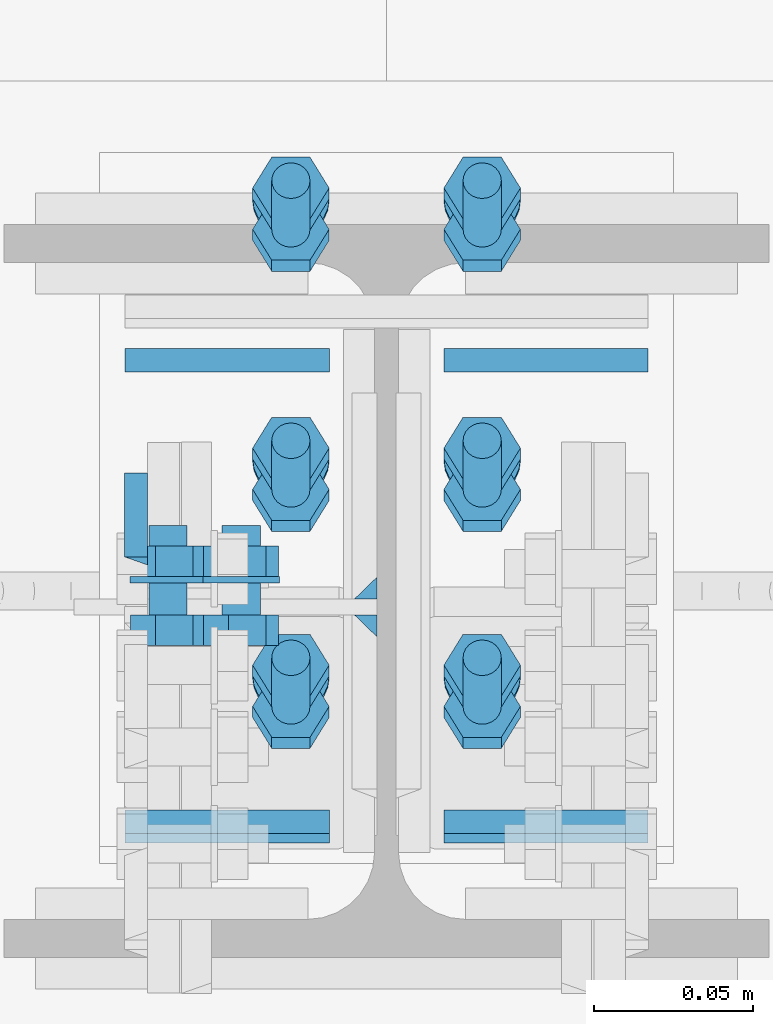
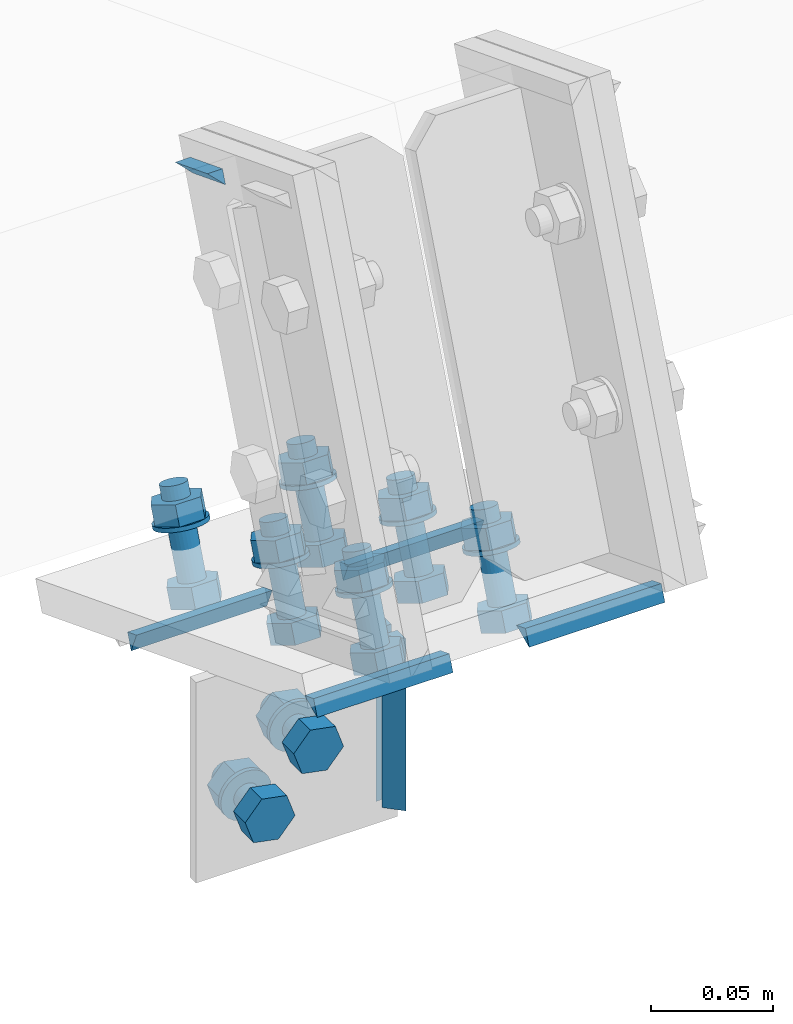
# One storey, part 26 of 72: 32 mechanical fasteners, 11 fasteners.
"""IFC4 building model written with IfcOpenShell, lengths in metres."""

from ifc_helpers import new_model, si_unit, frame, origin_with_axes, place, context, project, spatial, polyline, outline, extrude, type_object, element, save


model = new_model("IFC4")

# Units and contexts
model_context = context("Model", 3, precision=1e-05, world=origin_with_axes())
ifc_project = project(units=[si_unit("LENGTHUNIT", "METRE"), si_unit("AREAUNIT", "SQUARE_METRE"), si_unit("VOLUMEUNIT", "CUBIC_METRE"), si_unit("MASSUNIT", "GRAM", prefix="KILO"), si_unit("TIMEUNIT", "SECOND"), si_unit("PLANEANGLEUNIT", "RADIAN"), si_unit("SOLIDANGLEUNIT", "STERADIAN"), si_unit("THERMODYNAMICTEMPERATUREUNIT", "DEGREE_CELSIUS")], contexts=[model_context])

# Site, building, storey
placement_1 = place(None, origin_with_axes())
site = spatial("IfcSite", under=ifc_project, at=placement_1, Name="Italia", CompositionType="ELEMENT")
building = spatial("IfcBuilding", under=site, at=placement_1, Name="Uffici", CompositionType="ELEMENT")
storey = spatial("IfcBuildingStorey", under=building, at=placement_1, Name="Storey 0", CompositionType="ELEMENT", Elevation=0.0)

# Mechanical fasteners
mechanical_fastener_type_1 = type_object("IfcMechanicalFastenerType", Name="Collegamento 0202_0101", PredefinedType="BOLT")
placement_2 = place(placement_1, origin_with_axes())
mechanical_fastener_1_placement = place(placement_2, origin_with_axes())
element("IfcMechanicalFastener", 1, at=mechanical_fastener_1_placement, inside=storey, type_object=mechanical_fastener_type_1, Name="Collegamento 0202_0101", NominalDiameter=0.0119998, context=model_context, shape_type="SweptSolid", body=[
    extrude(outline(polyline([(0.0, 0.0), (0.00786185, 0.00906563), (0.00394154, 0.0204072), (-0.00784063, 0.0226831), (-0.0157025, 0.013617), (-0.0117822, 0.00227547), (0.0, 0.0)])), frame((3.16333, -0.0075, 6.93199), z_axis=(0.0, -1.0, 0.0), x_axis=(1.0, 0.0, 0.0)), (0.0, 0.0, 1.0), 0.0096),
])
mechanical_fastener_type_2 = type_object("IfcMechanicalFastenerType", Name="Collegamento 0202_0101", PredefinedType="BOLT")
mechanical_fastener_2_placement = place(placement_2, origin_with_axes())
element("IfcMechanicalFastener", 2, at=mechanical_fastener_2_placement, inside=storey, type_object=mechanical_fastener_type_2, Name="Collegamento 0202_0101", NominalDiameter=0.012, context=model_context, shape_type="SweptSolid", body=[
    extrude(outline(polyline([(0.0, 0.0), (-0.000204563, -0.00155306), (-0.000803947, -0.00299978), (-0.00175738, -0.00424242), (-0.00300002, -0.00519609), (-0.00444722, -0.00579548), (-0.00600004, -0.00600004), (-0.00755286, -0.00579548), (-0.00900006, -0.00519609), (-0.0102427, -0.00424242), (-0.0111961, -0.00299978), (-0.0117955, -0.00155306), (-0.0120001, 0.0), (-0.0117955, 0.00155306), (-0.0111961, 0.00299978), (-0.0102427, 0.00424242), (-0.00900006, 0.00519609), (-0.00755286, 0.00579548), (-0.00600004, 0.00600004), (-0.00444722, 0.00579548), (-0.00300002, 0.00519609), (-0.00175738, 0.00424242), (-0.000803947, 0.00299978), (-0.000204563, 0.00155306), (0.0, 0.0)])), frame((3.16541, 0.0205, 6.94333), z_axis=(0.0, -1.0, 0.0), x_axis=(1.0, 0.0, 0.0)), (0.0, 0.0, 1.0), 0.028),
])
mechanical_fastener_type_3 = type_object("IfcMechanicalFastenerType", Name="Collegamento 0202_0101", PredefinedType="BOLT")
mechanical_fastener_3_placement = place(placement_2, origin_with_axes())
element("IfcMechanicalFastener", 3, at=mechanical_fastener_3_placement, inside=storey, type_object=mechanical_fastener_type_3, Name="Collegamento 0202_0101", NominalDiameter=0.0119998, context=model_context, shape_type="SweptSolid", body=[
    extrude(outline(polyline([(0.0, 0.0), (0.00786185, 0.00906563), (0.00394154, 0.0204072), (-0.00784063, 0.0226831), (-0.0157025, 0.013617), (-0.0117822, 0.00227547), (0.0, 0.0)])), frame((3.16333, 0.0141, 6.93199), z_axis=(0.0, -1.0, 0.0), x_axis=(1.0, 0.0, 0.0)), (0.0, 0.0, 1.0), 0.0096),
])
mechanical_fastener_type_4 = type_object("IfcMechanicalFastenerType", Name="Collegamento 0202_0101", PredefinedType="BOLT")
mechanical_fastener_4_placement = place(placement_2, origin_with_axes())
element("IfcMechanicalFastener", 4, at=mechanical_fastener_4_placement, inside=storey, type_object=mechanical_fastener_type_4, Name="Collegamento 0202_0101", NominalDiameter=0.024, context=model_context, shape_type="SweptSolid", body=[
    extrude(outline(polyline([(0.0, 0.0), (-0.000408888, -0.00310564), (-0.00160789, -0.00600004), (-0.00351477, -0.00848532), (-0.00600004, -0.0103922), (-0.00889421, -0.011591), (-0.0120001, -0.0120001), (-0.015106, -0.011591), (-0.0180001, -0.0103922), (-0.0204854, -0.00848532), (-0.0223923, -0.00600004), (-0.0235913, -0.00310564), (-0.0240002, 0.0), (-0.0235913, 0.00310564), (-0.0223923, 0.00600004), (-0.0204854, 0.00848532), (-0.0180001, 0.0103922), (-0.015106, 0.011591), (-0.0120001, 0.0120001), (-0.00889421, 0.011591), (-0.00600004, 0.0103922), (-0.00351477, 0.00848532), (-0.00160789, 0.00600004), (-0.000408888, 0.00310564), (0.0, 0.0)])), frame((3.17141, 0.0045, 6.94333), z_axis=(0.0, -1.0, 0.0), x_axis=(1.0, 0.0, 0.0)), (0.0, 0.0, 1.0), 0.002),
])
mechanical_fastener_type_5 = type_object("IfcMechanicalFastenerType", Name="Collegamento 0202_0101", PredefinedType="BOLT")
mechanical_fastener_5_placement = place(placement_2, origin_with_axes())
element("IfcMechanicalFastener", 5, at=mechanical_fastener_5_placement, inside=storey, type_object=mechanical_fastener_type_5, Name="Collegamento 0202_0101", NominalDiameter=0.0119999, context=model_context, shape_type="SweptSolid", body=[
    extrude(outline(polyline([(0.0, 0.0), (0.00786185, 0.0090661), (0.00394154, 0.0204077), (-0.00784063, 0.0226831), (-0.0157027, 0.0136175), (-0.0117824, 0.00227594), (0.0, 0.0)])), frame((3.1404, -0.0075, 6.90555), z_axis=(0.0, -1.0, 0.0), x_axis=(1.0, 0.0, 0.0)), (0.0, 0.0, 1.0), 0.0096),
])
mechanical_fastener_type_6 = type_object("IfcMechanicalFastenerType", Name="Collegamento 0202_0101", PredefinedType="BOLT")
mechanical_fastener_6_placement = place(placement_2, origin_with_axes())
element("IfcMechanicalFastener", 6, at=mechanical_fastener_6_placement, inside=storey, type_object=mechanical_fastener_type_6, Name="Collegamento 0202_0101", NominalDiameter=0.012, context=model_context, shape_type="SweptSolid", body=[
    extrude(outline(polyline([(0.0, 0.0), (-0.000204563, -0.00155306), (-0.000803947, -0.00299978), (-0.00175738, -0.00424242), (-0.00300002, -0.00519609), (-0.00444722, -0.00579548), (-0.00600004, -0.00600004), (-0.00755286, -0.00579548), (-0.00900006, -0.00519609), (-0.0102427, -0.00424242), (-0.0111961, -0.00299978), (-0.0117955, -0.00155306), (-0.0120001, 0.0), (-0.0117955, 0.00155306), (-0.0111961, 0.00299978), (-0.0102427, 0.00424242), (-0.00900006, 0.00519609), (-0.00755286, 0.00579548), (-0.00600004, 0.00600004), (-0.00444722, 0.00579548), (-0.00300002, 0.00519609), (-0.00175738, 0.00424242), (-0.000803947, 0.00299978), (-0.000204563, 0.00155306), (0.0, 0.0)])), frame((3.14248, 0.0205, 6.91689), z_axis=(0.0, -1.0, 0.0), x_axis=(1.0, 0.0, 0.0)), (0.0, 0.0, 1.0), 0.028),
])
mechanical_fastener_type_7 = type_object("IfcMechanicalFastenerType", Name="Collegamento 0202_0101", PredefinedType="BOLT")
mechanical_fastener_7_placement = place(placement_2, origin_with_axes())
element("IfcMechanicalFastener", 7, at=mechanical_fastener_7_placement, inside=storey, type_object=mechanical_fastener_type_7, Name="Collegamento 0202_0101", NominalDiameter=0.0119999, context=model_context, shape_type="SweptSolid", body=[
    extrude(outline(polyline([(0.0, 0.0), (0.00786185, 0.0090661), (0.00394154, 0.0204077), (-0.00784063, 0.0226831), (-0.0157027, 0.0136175), (-0.0117824, 0.00227594), (0.0, 0.0)])), frame((3.1404, 0.0141, 6.90555), z_axis=(0.0, -1.0, 0.0), x_axis=(1.0, 0.0, 0.0)), (0.0, 0.0, 1.0), 0.0096),
])
mechanical_fastener_type_8 = type_object("IfcMechanicalFastenerType", Name="Collegamento 0202_0101", PredefinedType="BOLT")
mechanical_fastener_8_placement = place(placement_2, origin_with_axes())
element("IfcMechanicalFastener", 8, at=mechanical_fastener_8_placement, inside=storey, type_object=mechanical_fastener_type_8, Name="Collegamento 0202_0101", NominalDiameter=0.024, context=model_context, shape_type="SweptSolid", body=[
    extrude(outline(polyline([(0.0, 0.0), (-0.000408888, -0.00310564), (-0.00160789, -0.00600004), (-0.00351477, -0.00848532), (-0.00600004, -0.0103922), (-0.00889421, -0.011591), (-0.0120001, -0.0120001), (-0.015106, -0.011591), (-0.0180001, -0.0103922), (-0.0204854, -0.00848532), (-0.0223923, -0.00600004), (-0.0235913, -0.00310564), (-0.0240002, 0.0), (-0.0235913, 0.00310564), (-0.0223923, 0.00600004), (-0.0204854, 0.00848532), (-0.0180001, 0.0103922), (-0.015106, 0.011591), (-0.0120001, 0.0120001), (-0.00889421, 0.011591), (-0.00600004, 0.0103922), (-0.00351477, 0.00848532), (-0.00160789, 0.00600004), (-0.000408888, 0.00310564), (0.0, 0.0)])), frame((3.14848, 0.0045, 6.91689), z_axis=(0.0, -1.0, 0.0), x_axis=(1.0, 0.0, 0.0)), (0.0, 0.0, 1.0), 0.002),
])

# Fasteners
fastener_type_1 = type_object("IfcFastenerType", Name="Collegamento 0202_0101", PredefinedType="WELD")
fastener_1_placement = place(placement_2, origin_with_axes())
element("IfcFastener", 9, at=fastener_1_placement, inside=storey, type_object=fastener_type_1, Name="Collegamento 0202_0101", context=model_context, shape_type="SweptSolid", body=[
    extrude(outline(polyline([(0.0, 0.0), (-0.00695816, -0.00717354), (-0.00695816, 0.0), (0.0, 0.0)])), frame((3.20205, 0.00440816, 6.9825), z_axis=(0.0, 0.0, -1.0), x_axis=(0.0, 1.0, 0.0)), (0.0, 0.0, 1.0), 0.0861006),
])
fastener_type_2 = type_object("IfcFastenerType", Name="Collegamento 0202_0101", PredefinedType="WELD")
fastener_2_placement = place(placement_2, origin_with_axes())
element("IfcFastener", 10, at=fastener_2_placement, inside=storey, type_object=fastener_type_2, Name="Collegamento 0202_0101", context=model_context, shape_type="SweptSolid", body=[
    extrude(outline(polyline([(0.0, 0.0), (0.00695816, 0.00717354), (0.00695816, 0.0), (0.0, 0.0)])), frame((3.20205, -0.0144082, 6.8964), z_axis=(0.0, 0.0, 1.0), x_axis=(0.0, 1.0, 0.0)), (0.0, 0.0, 1.0), 0.0861006),
])
fastener_type_3 = type_object("IfcFastenerType", Name="Collegamento 0202_0102", PredefinedType="WELD")
fastener_3_placement = place(placement_2, origin_with_axes())
element("IfcFastener", 11, at=fastener_3_placement, inside=storey, type_object=fastener_type_3, Name="Collegamento 0202_0102", context=model_context, shape_type="SweptSolid", body=[
    extrude(outline(polyline([(0.0, 0.0), (-0.00443701, -0.0104871), (-0.00739191, -0.00286627), (0.0, 0.0)])), frame((3.28705, 0.0686728, 6.96138), z_axis=(-1.0, 0.0, 0.0), x_axis=(0.0, -1.0, 0.0)), (0.0, 0.0, 1.0), 0.0640998),
])
fastener_type_4 = type_object("IfcFastenerType", Name="Collegamento 0202_0102", PredefinedType="WELD")
fastener_4_placement = place(placement_2, origin_with_axes())
element("IfcFastener", 12, at=fastener_4_placement, inside=storey, type_object=fastener_type_4, Name="Collegamento 0202_0102", context=model_context, shape_type="SweptSolid", body=[
    extrude(outline(polyline([(0.0, 0.0), (-0.0103468, -0.00475407), (-0.00739191, 0.00286627), (0.0, 0.0)])), frame((3.22295, -0.0686365, 7.01462), z_axis=(1.0, 0.0, 0.0), x_axis=(0.0, 1.0, 0.0)), (0.0, 0.0, 1.0), 0.0640998),
])
fastener_type_5 = type_object("IfcFastenerType", Name="Collegamento 0202_0102", PredefinedType="WELD")
fastener_5_placement = place(placement_2, origin_with_axes())
element("IfcFastener", 13, at=fastener_5_placement, inside=storey, type_object=fastener_type_5, Name="Collegamento 0202_0102", context=model_context, shape_type="SweptSolid", body=[
    extrude(outline(polyline([(0.0, 0.0), (-0.0103468, -0.00475407), (-0.00739191, 0.00286627), (0.0, 0.0)])), frame((3.12295, -0.0686365, 7.01462), z_axis=(1.0, 0.0, 0.0), x_axis=(0.0, 1.0, 0.0)), (0.0, 0.0, 1.0), 0.0640998),
])
fastener_type_6 = type_object("IfcFastenerType", Name="Collegamento 0202_0102", PredefinedType="WELD")
fastener_6_placement = place(placement_2, origin_with_axes())
element("IfcFastener", 14, at=fastener_6_placement, inside=storey, type_object=fastener_type_6, Name="Collegamento 0202_0102", context=model_context, shape_type="SweptSolid", body=[
    extrude(outline(polyline([(0.0, 0.0), (-0.00443701, -0.0104871), (-0.00739191, -0.00286627), (0.0, 0.0)])), frame((3.18705, 0.0686728, 6.96138), z_axis=(-1.0, 0.0, 0.0), x_axis=(0.0, -1.0, 0.0)), (0.0, 0.0, 1.0), 0.0640998),
])
fastener_type_7 = type_object("IfcFastenerType", Name="Collegamento 0202_0102", PredefinedType="WELD")
fastener_7_placement = place(placement_2, origin_with_axes())
element("IfcFastener", 15, at=fastener_7_placement, inside=storey, type_object=fastener_type_7, Name="Collegamento 0202_0102", context=model_context, shape_type="SweptSolid", body=[
    extrude(outline(polyline([(0.0, 0.0), (-0.00443701, -0.0104871), (-0.00739191, -0.00286627), (0.0, 0.0)])), frame((3.28705, 0.0686728, 6.96138), z_axis=(-1.0, 0.0, 0.0), x_axis=(0.0, -1.0, 0.0)), (0.0, 0.0, 1.0), 0.0640998),
])
fastener_type_8 = type_object("IfcFastenerType", Name="Collegamento 0202_0102", PredefinedType="WELD")
fastener_8_placement = place(placement_2, origin_with_axes())
element("IfcFastener", 16, at=fastener_8_placement, inside=storey, type_object=fastener_type_8, Name="Collegamento 0202_0102", context=model_context, shape_type="SweptSolid", body=[
    extrude(outline(polyline([(0.0, 0.0), (-0.0103468, -0.00475407), (-0.00739191, 0.00286627), (0.0, 0.0)])), frame((3.22295, -0.0686365, 7.01462), z_axis=(1.0, 0.0, 0.0), x_axis=(0.0, 1.0, 0.0)), (0.0, 0.0, 1.0), 0.0640998),
])
fastener_type_9 = type_object("IfcFastenerType", Name="Collegamento 0202_0102", PredefinedType="WELD")
fastener_9_placement = place(placement_2, origin_with_axes())
element("IfcFastener", 17, at=fastener_9_placement, inside=storey, type_object=fastener_type_9, Name="Collegamento 0202_0102", context=model_context, shape_type="SweptSolid", body=[
    extrude(outline(polyline([(0.0, 0.0), (-0.0103468, -0.00475407), (-0.00739191, 0.00286627), (0.0, 0.0)])), frame((3.12295, -0.0686365, 7.01462), z_axis=(1.0, 0.0, 0.0), x_axis=(0.0, 1.0, 0.0)), (0.0, 0.0, 1.0), 0.0640998),
])
fastener_type_10 = type_object("IfcFastenerType", Name="Collegamento 0202_0102", PredefinedType="WELD")
fastener_10_placement = place(placement_2, origin_with_axes())
element("IfcFastener", 18, at=fastener_10_placement, inside=storey, type_object=fastener_type_10, Name="Collegamento 0202_0102", context=model_context, shape_type="SweptSolid", body=[
    extrude(outline(polyline([(0.0, 0.0), (-0.00443701, -0.0104871), (-0.00739191, -0.00286627), (0.0, 0.0)])), frame((3.18705, 0.0686728, 6.96138), z_axis=(-1.0, 0.0, 0.0), x_axis=(0.0, -1.0, 0.0)), (0.0, 0.0, 1.0), 0.0640998),
])

# Mechanical fasteners
mechanical_fastener_type_9 = type_object("IfcMechanicalFastenerType", Name="Collegamento 0202_0102", PredefinedType="BOLT")
mechanical_fastener_9_placement = place(placement_2, origin_with_axes())
element("IfcMechanicalFastener", 19, at=mechanical_fastener_9_placement, inside=storey, type_object=mechanical_fastener_type_9, Name="Collegamento 0202_0102", NominalDiameter=0.012, context=model_context, shape_type="SweptSolid", body=[
    extrude(outline(polyline([(0.0, 0.0), (0.0120001, 0.0), (0.0180001, -0.0103924), (0.0120001, -0.0207849), (0.0, -0.0207849), (-0.00600004, -0.0103924), (0.0, 0.0)])), frame((3.229, 0.103764, 6.94772), z_axis=(0.0, -0.361526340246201, -0.932361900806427), x_axis=(1.0, 0.0, 0.0)), (0.0, 0.0, 1.0), 0.00960004),
])
mechanical_fastener_type_10 = type_object("IfcMechanicalFastenerType", Name="Collegamento 0202_0102", PredefinedType="BOLT")
mechanical_fastener_10_placement = place(placement_2, origin_with_axes())
element("IfcMechanicalFastener", 20, at=mechanical_fastener_10_placement, inside=storey, type_object=mechanical_fastener_type_10, Name="Collegamento 0202_0102", NominalDiameter=0.012, context=model_context, shape_type="SweptSolid", body=[
    extrude(outline(polyline([(0.0, 0.0), (-0.000204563, -0.00155282), (-0.000803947, -0.00300002), (-0.00175738, -0.00424266), (-0.00300002, -0.00519633), (-0.00444722, -0.00579548), (-0.00600004, -0.0059998), (-0.00755286, -0.00579548), (-0.00900006, -0.00519633), (-0.0102427, -0.00424266), (-0.0111961, -0.00300002), (-0.0117955, -0.00155282), (-0.0120001, 0.0), (-0.0117955, 0.00155282), (-0.0111961, 0.00300002), (-0.0102427, 0.00424266), (-0.00900006, 0.00519633), (-0.00755286, 0.00579548), (-0.00600004, 0.00600004), (-0.00444722, 0.00579548), (-0.00300002, 0.00519633), (-0.00175738, 0.00424266), (-0.000803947, 0.00300002), (-0.000204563, 0.00155282), (0.0, 0.0)])), frame((3.241, 0.12871, 6.9833), z_axis=(0.0, -0.361526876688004, -0.932361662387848), x_axis=(1.0, 0.0, 0.0)), (0.0, 0.0, 1.0), 0.0422001),
])
mechanical_fastener_type_11 = type_object("IfcMechanicalFastenerType", Name="Collegamento 0202_0102", PredefinedType="BOLT")
mechanical_fastener_11_placement = place(placement_2, origin_with_axes())
element("IfcMechanicalFastener", 21, at=mechanical_fastener_11_placement, inside=storey, type_object=mechanical_fastener_type_11, Name="Collegamento 0202_0102", NominalDiameter=0.012, context=model_context, shape_type="SweptSolid", body=[
    extrude(outline(polyline([(0.0, 0.0), (0.0120001, 0.0), (0.0180001, -0.0103924), (0.0120001, -0.0207849), (0.0, -0.0207849), (-0.00600004, -0.0103924), (0.0, 0.0)])), frame((3.229, 0.116706, 6.98109), z_axis=(0.0, -0.361526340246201, -0.932361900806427), x_axis=(1.0, 0.0, 0.0)), (0.0, 0.0, 1.0), 0.00960004),
])
mechanical_fastener_type_12 = type_object("IfcMechanicalFastenerType", Name="Collegamento 0202_0102", PredefinedType="BOLT")
mechanical_fastener_12_placement = place(placement_2, origin_with_axes())
element("IfcMechanicalFastener", 22, at=mechanical_fastener_12_placement, inside=storey, type_object=mechanical_fastener_type_12, Name="Collegamento 0202_0102", NominalDiameter=0.024, context=model_context, shape_type="SweptSolid", body=[
    extrude(outline(polyline([(0.0, 0.0), (-0.000408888, -0.00310588), (-0.00160789, -0.00600004), (-0.00351477, -0.00848532), (-0.00600004, -0.0103924), (-0.00889421, -0.0115912), (-0.0120001, -0.0120001), (-0.015106, -0.0115912), (-0.0180001, -0.0103924), (-0.0204854, -0.00848532), (-0.0223923, -0.00600004), (-0.0235913, -0.00310588), (-0.0240002, 0.0), (-0.0235913, 0.00310588), (-0.0223923, 0.0059998), (-0.0204854, 0.00848508), (-0.0180001, 0.0103922), (-0.015106, 0.0115912), (-0.0120001, 0.0119998), (-0.00889421, 0.0115912), (-0.00600004, 0.0103922), (-0.00351477, 0.00848508), (-0.00160789, 0.0059998), (-0.000408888, 0.00310588), (0.0, 0.0)])), frame((3.247, 0.122925, 6.96839), z_axis=(0.0, -0.36160933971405, -0.932329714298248), x_axis=(1.0, 0.0, 0.0)), (0.0, 0.0, 1.0), 0.00199976),
])
mechanical_fastener_type_13 = type_object("IfcMechanicalFastenerType", Name="Collegamento 0202_0102", PredefinedType="BOLT")
mechanical_fastener_13_placement = place(placement_2, origin_with_axes())
element("IfcMechanicalFastener", 23, at=mechanical_fastener_13_placement, inside=storey, type_object=mechanical_fastener_type_13, Name="Collegamento 0202_0102", NominalDiameter=0.012, context=model_context, shape_type="SweptSolid", body=[
    extrude(outline(polyline([(0.0, 0.0), (0.0120001, 0.0), (0.0180001, -0.0103924), (0.0120001, -0.0207849), (0.0, -0.0207849), (-0.00600004, -0.0103924), (0.0, 0.0)])), frame((3.169, 0.103764, 6.94772), z_axis=(0.0, -0.361526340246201, -0.932361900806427), x_axis=(1.0, 0.0, 0.0)), (0.0, 0.0, 1.0), 0.00960004),
])
mechanical_fastener_type_14 = type_object("IfcMechanicalFastenerType", Name="Collegamento 0202_0102", PredefinedType="BOLT")
mechanical_fastener_14_placement = place(placement_2, origin_with_axes())
element("IfcMechanicalFastener", 24, at=mechanical_fastener_14_placement, inside=storey, type_object=mechanical_fastener_type_14, Name="Collegamento 0202_0102", NominalDiameter=0.012, context=model_context, shape_type="SweptSolid", body=[
    extrude(outline(polyline([(0.0, 0.0), (-0.000204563, -0.00155282), (-0.000803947, -0.00300002), (-0.00175738, -0.00424266), (-0.00300002, -0.00519633), (-0.00444722, -0.00579548), (-0.00600004, -0.0059998), (-0.00755286, -0.00579548), (-0.00900006, -0.00519633), (-0.0102427, -0.00424266), (-0.0111961, -0.00300002), (-0.0117955, -0.00155282), (-0.0120001, 0.0), (-0.0117955, 0.00155282), (-0.0111961, 0.00300002), (-0.0102427, 0.00424266), (-0.00900006, 0.00519633), (-0.00755286, 0.00579548), (-0.00600004, 0.00600004), (-0.00444722, 0.00579548), (-0.00300002, 0.00519633), (-0.00175738, 0.00424266), (-0.000803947, 0.00300002), (-0.000204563, 0.00155282), (0.0, 0.0)])), frame((3.181, 0.12871, 6.9833), z_axis=(0.0, -0.361526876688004, -0.932361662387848), x_axis=(1.0, 0.0, 0.0)), (0.0, 0.0, 1.0), 0.0422001),
])
mechanical_fastener_type_15 = type_object("IfcMechanicalFastenerType", Name="Collegamento 0202_0102", PredefinedType="BOLT")
mechanical_fastener_15_placement = place(placement_2, origin_with_axes())
element("IfcMechanicalFastener", 25, at=mechanical_fastener_15_placement, inside=storey, type_object=mechanical_fastener_type_15, Name="Collegamento 0202_0102", NominalDiameter=0.012, context=model_context, shape_type="SweptSolid", body=[
    extrude(outline(polyline([(0.0, 0.0), (0.0120001, 0.0), (0.0180001, -0.0103924), (0.0120001, -0.0207849), (0.0, -0.0207849), (-0.00600004, -0.0103924), (0.0, 0.0)])), frame((3.169, 0.116706, 6.98109), z_axis=(0.0, -0.361526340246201, -0.932361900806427), x_axis=(1.0, 0.0, 0.0)), (0.0, 0.0, 1.0), 0.00960004),
])
mechanical_fastener_type_16 = type_object("IfcMechanicalFastenerType", Name="Collegamento 0202_0102", PredefinedType="BOLT")
mechanical_fastener_16_placement = place(placement_2, origin_with_axes())
element("IfcMechanicalFastener", 26, at=mechanical_fastener_16_placement, inside=storey, type_object=mechanical_fastener_type_16, Name="Collegamento 0202_0102", NominalDiameter=0.024, context=model_context, shape_type="SweptSolid", body=[
    extrude(outline(polyline([(0.0, 0.0), (-0.000408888, -0.00310588), (-0.00160789, -0.00600004), (-0.00351477, -0.00848532), (-0.00600004, -0.0103924), (-0.00889421, -0.0115912), (-0.0120001, -0.0120001), (-0.015106, -0.0115912), (-0.0180001, -0.0103924), (-0.0204854, -0.00848532), (-0.0223923, -0.00600004), (-0.0235913, -0.00310588), (-0.0240002, 0.0), (-0.0235913, 0.00310588), (-0.0223923, 0.0059998), (-0.0204854, 0.00848508), (-0.0180001, 0.0103922), (-0.015106, 0.0115912), (-0.0120001, 0.0119998), (-0.00889421, 0.0115912), (-0.00600004, 0.0103922), (-0.00351477, 0.00848508), (-0.00160789, 0.0059998), (-0.000408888, 0.00310588), (0.0, 0.0)])), frame((3.187, 0.122925, 6.96839), z_axis=(0.0, -0.36160933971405, -0.932329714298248), x_axis=(1.0, 0.0, 0.0)), (0.0, 0.0, 1.0), 0.00199976),
])
mechanical_fastener_type_17 = type_object("IfcMechanicalFastenerType", Name="Collegamento 0202_0102", PredefinedType="BOLT")
mechanical_fastener_17_placement = place(placement_2, origin_with_axes())
element("IfcMechanicalFastener", 27, at=mechanical_fastener_17_placement, inside=storey, type_object=mechanical_fastener_type_17, Name="Collegamento 0202_0102", NominalDiameter=0.012, context=model_context, shape_type="SweptSolid", body=[
    extrude(outline(polyline([(0.0, 0.0), (0.0120001, 0.0), (0.0180001, -0.0103927), (0.0120001, -0.0207849), (0.0, -0.0207849), (-0.00600004, -0.0103927), (0.0, 0.0)])), frame((3.229, -0.0458802, 7.00574), z_axis=(0.0, -0.361526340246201, -0.932361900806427), x_axis=(1.0, 0.0, 0.0)), (0.0, 0.0, 1.0), 0.00960004),
])
mechanical_fastener_type_18 = type_object("IfcMechanicalFastenerType", Name="Collegamento 0202_0102", PredefinedType="BOLT")
mechanical_fastener_18_placement = place(placement_2, origin_with_axes())
element("IfcMechanicalFastener", 28, at=mechanical_fastener_18_placement, inside=storey, type_object=mechanical_fastener_type_18, Name="Collegamento 0202_0102", NominalDiameter=0.012, context=model_context, shape_type="SweptSolid", body=[
    extrude(outline(polyline([(0.0, 0.0), (-0.000204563, -0.00155282), (-0.000803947, -0.00300002), (-0.00175738, -0.00424266), (-0.00300002, -0.00519633), (-0.00444722, -0.00579548), (-0.00600004, -0.00600004), (-0.00755286, -0.00579548), (-0.00900006, -0.00519633), (-0.0102427, -0.00424266), (-0.0111961, -0.00300002), (-0.0117955, -0.00155282), (-0.0120001, 0.0), (-0.0117955, 0.00155282), (-0.0111961, 0.00300002), (-0.0102427, 0.00424266), (-0.00900006, 0.00519609), (-0.00755286, 0.00579548), (-0.00600004, 0.00600004), (-0.00444722, 0.00579548), (-0.00300002, 0.00519609), (-0.00175738, 0.00424266), (-0.000803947, 0.00300002), (-0.000204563, 0.00155282), (0.0, 0.0)])), frame((3.241, -0.0209343, 7.04133), z_axis=(0.0, -0.361532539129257, -0.932359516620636), x_axis=(1.0, 0.0, 0.0)), (0.0, 0.0, 1.0), 0.0421997),
])
mechanical_fastener_type_19 = type_object("IfcMechanicalFastenerType", Name="Collegamento 0202_0102", PredefinedType="BOLT")
mechanical_fastener_19_placement = place(placement_2, origin_with_axes())
element("IfcMechanicalFastener", 29, at=mechanical_fastener_19_placement, inside=storey, type_object=mechanical_fastener_type_19, Name="Collegamento 0202_0102", NominalDiameter=0.012, context=model_context, shape_type="SweptSolid", body=[
    extrude(outline(polyline([(0.0, 0.0), (0.0120001, 0.0), (0.0180001, -0.0103922), (0.0120001, -0.0207844), (0.0, -0.0207844), (-0.00600004, -0.0103922), (0.0, 0.0)])), frame((3.229, -0.0329375, 7.03912), z_axis=(0.0, -0.361543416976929, -0.932355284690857), x_axis=(1.0, 0.0, 0.0)), (0.0, 0.0, 1.0), 0.0095996),
])
mechanical_fastener_type_20 = type_object("IfcMechanicalFastenerType", Name="Collegamento 0202_0102", PredefinedType="BOLT")
mechanical_fastener_20_placement = place(placement_2, origin_with_axes())
element("IfcMechanicalFastener", 30, at=mechanical_fastener_20_placement, inside=storey, type_object=mechanical_fastener_type_20, Name="Collegamento 0202_0102", NominalDiameter=0.024, context=model_context, shape_type="SweptSolid", body=[
    extrude(outline(polyline([(0.0, 0.0), (-0.000408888, -0.00310588), (-0.00160789, -0.00600028), (-0.00351477, -0.00848532), (-0.00600004, -0.0103924), (-0.00889421, -0.0115912), (-0.0120001, -0.0120001), (-0.015106, -0.0115912), (-0.0180001, -0.0103924), (-0.0204854, -0.00848532), (-0.0223923, -0.00600028), (-0.0235913, -0.00310588), (-0.0240002, 0.0), (-0.0235913, 0.00310564), (-0.0223923, 0.0059998), (-0.0204854, 0.00848508), (-0.0180001, 0.010392), (-0.015106, 0.0115907), (-0.0120001, 0.0119998), (-0.00889421, 0.0115907), (-0.00600004, 0.010392), (-0.00351477, 0.00848508), (-0.00160789, 0.0059998), (-0.000408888, 0.00310564), (0.0, 0.0)])), frame((3.247, -0.0267188, 7.02641), z_axis=(0.0, -0.361576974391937, -0.932342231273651), x_axis=(1.0, 0.0, 0.0)), (0.0, 0.0, 1.0), 0.00199973),
])
mechanical_fastener_type_21 = type_object("IfcMechanicalFastenerType", Name="Collegamento 0202_0102", PredefinedType="BOLT")
mechanical_fastener_21_placement = place(placement_2, origin_with_axes())
element("IfcMechanicalFastener", 31, at=mechanical_fastener_21_placement, inside=storey, type_object=mechanical_fastener_type_21, Name="Collegamento 0202_0102", NominalDiameter=0.012, context=model_context, shape_type="SweptSolid", body=[
    extrude(outline(polyline([(0.0, 0.0), (0.0120001, 0.0), (0.0180001, -0.0103927), (0.0120001, -0.0207849), (0.0, -0.0207849), (-0.00600004, -0.0103927), (0.0, 0.0)])), frame((3.169, -0.0458802, 7.00574), z_axis=(0.0, -0.361526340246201, -0.932361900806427), x_axis=(1.0, 0.0, 0.0)), (0.0, 0.0, 1.0), 0.00960004),
])
mechanical_fastener_type_22 = type_object("IfcMechanicalFastenerType", Name="Collegamento 0202_0102", PredefinedType="BOLT")
mechanical_fastener_22_placement = place(placement_2, origin_with_axes())
element("IfcMechanicalFastener", 32, at=mechanical_fastener_22_placement, inside=storey, type_object=mechanical_fastener_type_22, Name="Collegamento 0202_0102", NominalDiameter=0.012, context=model_context, shape_type="SweptSolid", body=[
    extrude(outline(polyline([(0.0, 0.0), (-0.000204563, -0.00155282), (-0.000803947, -0.00300002), (-0.00175738, -0.00424266), (-0.00300002, -0.00519633), (-0.00444722, -0.00579548), (-0.00600004, -0.00600004), (-0.00755286, -0.00579548), (-0.00900006, -0.00519633), (-0.0102427, -0.00424266), (-0.0111961, -0.00300002), (-0.0117955, -0.00155282), (-0.0120001, 0.0), (-0.0117955, 0.00155282), (-0.0111961, 0.00300002), (-0.0102427, 0.00424266), (-0.00900006, 0.00519609), (-0.00755286, 0.00579548), (-0.00600004, 0.00600004), (-0.00444722, 0.00579548), (-0.00300002, 0.00519609), (-0.00175738, 0.00424266), (-0.000803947, 0.00300002), (-0.000204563, 0.00155282), (0.0, 0.0)])), frame((3.181, -0.0209343, 7.04133), z_axis=(0.0, -0.361532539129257, -0.932359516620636), x_axis=(1.0, 0.0, 0.0)), (0.0, 0.0, 1.0), 0.0421997),
])
mechanical_fastener_type_23 = type_object("IfcMechanicalFastenerType", Name="Collegamento 0202_0102", PredefinedType="BOLT")
mechanical_fastener_23_placement = place(placement_2, origin_with_axes())
element("IfcMechanicalFastener", 33, at=mechanical_fastener_23_placement, inside=storey, type_object=mechanical_fastener_type_23, Name="Collegamento 0202_0102", NominalDiameter=0.012, context=model_context, shape_type="SweptSolid", body=[
    extrude(outline(polyline([(0.0, 0.0), (0.0120001, 0.0), (0.0180001, -0.0103922), (0.0120001, -0.0207844), (0.0, -0.0207844), (-0.00600004, -0.0103922), (0.0, 0.0)])), frame((3.169, -0.0329375, 7.03912), z_axis=(0.0, -0.361543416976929, -0.932355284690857), x_axis=(1.0, 0.0, 0.0)), (0.0, 0.0, 1.0), 0.0095996),
])
mechanical_fastener_type_24 = type_object("IfcMechanicalFastenerType", Name="Collegamento 0202_0102", PredefinedType="BOLT")
mechanical_fastener_24_placement = place(placement_2, origin_with_axes())
element("IfcMechanicalFastener", 34, at=mechanical_fastener_24_placement, inside=storey, type_object=mechanical_fastener_type_24, Name="Collegamento 0202_0102", NominalDiameter=0.024, context=model_context, shape_type="SweptSolid", body=[
    extrude(outline(polyline([(0.0, 0.0), (-0.000408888, -0.00310588), (-0.00160789, -0.00600028), (-0.00351477, -0.00848532), (-0.00600004, -0.0103924), (-0.00889421, -0.0115912), (-0.0120001, -0.0120001), (-0.015106, -0.0115912), (-0.0180001, -0.0103924), (-0.0204854, -0.00848532), (-0.0223923, -0.00600028), (-0.0235913, -0.00310588), (-0.0240002, 0.0), (-0.0235913, 0.00310564), (-0.0223923, 0.0059998), (-0.0204854, 0.00848508), (-0.0180001, 0.010392), (-0.015106, 0.0115907), (-0.0120001, 0.0119998), (-0.00889421, 0.0115907), (-0.00600004, 0.010392), (-0.00351477, 0.00848508), (-0.00160789, 0.0059998), (-0.000408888, 0.00310564), (0.0, 0.0)])), frame((3.187, -0.0267188, 7.02641), z_axis=(0.0, -0.361576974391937, -0.932342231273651), x_axis=(1.0, 0.0, 0.0)), (0.0, 0.0, 1.0), 0.00199973),
])
mechanical_fastener_type_25 = type_object("IfcMechanicalFastenerType", Name="Collegamento 0202_0102", PredefinedType="BOLT")
mechanical_fastener_25_placement = place(placement_2, origin_with_axes())
element("IfcMechanicalFastener", 35, at=mechanical_fastener_25_placement, inside=storey, type_object=mechanical_fastener_type_25, Name="Collegamento 0202_0102", NominalDiameter=0.012, context=model_context, shape_type="SweptSolid", body=[
    extrude(outline(polyline([(0.0, 0.0), (0.0120001, 0.0), (0.0180001, -0.0103924), (0.0120001, -0.0207844), (0.0, -0.0207844), (-0.00600004, -0.0103924), (0.0, 0.0)])), frame((3.229, 0.0221821, 6.97935), z_axis=(0.0, -0.361526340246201, -0.932361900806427), x_axis=(1.0, 0.0, 0.0)), (0.0, 0.0, 1.0), 0.00960004),
])
mechanical_fastener_type_26 = type_object("IfcMechanicalFastenerType", Name="Collegamento 0202_0102", PredefinedType="BOLT")
mechanical_fastener_26_placement = place(placement_2, origin_with_axes())
element("IfcMechanicalFastener", 36, at=mechanical_fastener_26_placement, inside=storey, type_object=mechanical_fastener_type_26, Name="Collegamento 0202_0102", NominalDiameter=0.012, context=model_context, shape_type="SweptSolid", body=[
    extrude(outline(polyline([(0.0, 0.0), (-0.000204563, -0.00155282), (-0.000803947, -0.00300002), (-0.00175738, -0.00424266), (-0.00300002, -0.00519633), (-0.00444722, -0.00579548), (-0.00600004, -0.00600004), (-0.00755286, -0.00579548), (-0.00900006, -0.00519633), (-0.0102427, -0.00424266), (-0.0111961, -0.00300002), (-0.0117955, -0.00155282), (-0.0120001, 0.0), (-0.0117955, 0.00155282), (-0.0111961, 0.00300002), (-0.0102427, 0.00424266), (-0.00900006, 0.00519609), (-0.00755286, 0.00579548), (-0.00600004, 0.00600004), (-0.00444722, 0.00579548), (-0.00300002, 0.00519609), (-0.00175738, 0.00424266), (-0.000803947, 0.00300002), (-0.000204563, 0.00155282), (0.0, 0.0)])), frame((3.241, 0.047128, 7.01494), z_axis=(0.0, -0.361528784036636, -0.932360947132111), x_axis=(1.0, 0.0, 0.0)), (0.0, 0.0, 1.0), 0.0422001),
])
mechanical_fastener_type_27 = type_object("IfcMechanicalFastenerType", Name="Collegamento 0202_0102", PredefinedType="BOLT")
mechanical_fastener_27_placement = place(placement_2, origin_with_axes())
element("IfcMechanicalFastener", 37, at=mechanical_fastener_27_placement, inside=storey, type_object=mechanical_fastener_type_27, Name="Collegamento 0202_0102", NominalDiameter=0.012, context=model_context, shape_type="SweptSolid", body=[
    extrude(outline(polyline([(0.0, 0.0), (0.0120001, 0.0), (0.0180001, -0.0103922), (0.0120001, -0.0207844), (0.0, -0.0207844), (-0.00600004, -0.0103922), (0.0, 0.0)])), frame((3.229, 0.0351248, 7.01273), z_axis=(0.0, -0.361526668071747, -0.932361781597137), x_axis=(1.0, 0.0, 0.0)), (0.0, 0.0, 1.0), 0.00960004),
])
mechanical_fastener_type_28 = type_object("IfcMechanicalFastenerType", Name="Collegamento 0202_0102", PredefinedType="BOLT")
mechanical_fastener_28_placement = place(placement_2, origin_with_axes())
element("IfcMechanicalFastener", 38, at=mechanical_fastener_28_placement, inside=storey, type_object=mechanical_fastener_type_28, Name="Collegamento 0202_0102", NominalDiameter=0.024, context=model_context, shape_type="SweptSolid", body=[
    extrude(outline(polyline([(0.0, 0.0), (-0.000408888, -0.00310564), (-0.00160789, -0.00600004), (-0.00351477, -0.00848508), (-0.00600004, -0.0103924), (-0.00889421, -0.011591), (-0.0120001, -0.0119998), (-0.015106, -0.011591), (-0.0180001, -0.0103924), (-0.0204854, -0.00848508), (-0.0223923, -0.00600004), (-0.0235913, -0.00310564), (-0.0240002, 0.0), (-0.0235913, 0.00310588), (-0.0223923, 0.00600028), (-0.0204854, 0.00848532), (-0.0180001, 0.0103924), (-0.015106, 0.011591), (-0.0120001, 0.0119998), (-0.00889421, 0.011591), (-0.00600004, 0.0103924), (-0.00351477, 0.00848532), (-0.00160789, 0.00600028), (-0.000408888, 0.00310588), (0.0, 0.0)])), frame((3.247, 0.0413436, 7.00002), z_axis=(0.0, -0.3614162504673, -0.932404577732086), x_axis=(1.0, 0.0, 0.0)), (0.0, 0.0, 1.0), 0.00200062),
])
mechanical_fastener_type_29 = type_object("IfcMechanicalFastenerType", Name="Collegamento 0202_0102", PredefinedType="BOLT")
mechanical_fastener_29_placement = place(placement_2, origin_with_axes())
element("IfcMechanicalFastener", 39, at=mechanical_fastener_29_placement, inside=storey, type_object=mechanical_fastener_type_29, Name="Collegamento 0202_0102", NominalDiameter=0.012, context=model_context, shape_type="SweptSolid", body=[
    extrude(outline(polyline([(0.0, 0.0), (0.0120001, 0.0), (0.0180001, -0.0103924), (0.0120001, -0.0207844), (0.0, -0.0207844), (-0.00600004, -0.0103924), (0.0, 0.0)])), frame((3.169, 0.0221821, 6.97935), z_axis=(0.0, -0.361526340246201, -0.932361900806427), x_axis=(1.0, 0.0, 0.0)), (0.0, 0.0, 1.0), 0.00960004),
])
mechanical_fastener_type_30 = type_object("IfcMechanicalFastenerType", Name="Collegamento 0202_0102", PredefinedType="BOLT")
mechanical_fastener_30_placement = place(placement_2, origin_with_axes())
element("IfcMechanicalFastener", 40, at=mechanical_fastener_30_placement, inside=storey, type_object=mechanical_fastener_type_30, Name="Collegamento 0202_0102", NominalDiameter=0.012, context=model_context, shape_type="SweptSolid", body=[
    extrude(outline(polyline([(0.0, 0.0), (-0.000204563, -0.00155282), (-0.000803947, -0.00300002), (-0.00175738, -0.00424266), (-0.00300002, -0.00519633), (-0.00444722, -0.00579548), (-0.00600004, -0.00600004), (-0.00755286, -0.00579548), (-0.00900006, -0.00519633), (-0.0102427, -0.00424266), (-0.0111961, -0.00300002), (-0.0117955, -0.00155282), (-0.0120001, 0.0), (-0.0117955, 0.00155282), (-0.0111961, 0.00300002), (-0.0102427, 0.00424266), (-0.00900006, 0.00519609), (-0.00755286, 0.00579548), (-0.00600004, 0.00600004), (-0.00444722, 0.00579548), (-0.00300002, 0.00519609), (-0.00175738, 0.00424266), (-0.000803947, 0.00300002), (-0.000204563, 0.00155282), (0.0, 0.0)])), frame((3.181, 0.047128, 7.01494), z_axis=(0.0, -0.361528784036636, -0.932360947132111), x_axis=(1.0, 0.0, 0.0)), (0.0, 0.0, 1.0), 0.0422001),
])
mechanical_fastener_type_31 = type_object("IfcMechanicalFastenerType", Name="Collegamento 0202_0102", PredefinedType="BOLT")
mechanical_fastener_31_placement = place(placement_2, origin_with_axes())
element("IfcMechanicalFastener", 41, at=mechanical_fastener_31_placement, inside=storey, type_object=mechanical_fastener_type_31, Name="Collegamento 0202_0102", NominalDiameter=0.012, context=model_context, shape_type="SweptSolid", body=[
    extrude(outline(polyline([(0.0, 0.0), (0.0120001, 0.0), (0.0180001, -0.0103922), (0.0120001, -0.0207844), (0.0, -0.0207844), (-0.00600004, -0.0103922), (0.0, 0.0)])), frame((3.169, 0.0351248, 7.01273), z_axis=(0.0, -0.361526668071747, -0.932361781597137), x_axis=(1.0, 0.0, 0.0)), (0.0, 0.0, 1.0), 0.00960004),
])
mechanical_fastener_type_32 = type_object("IfcMechanicalFastenerType", Name="Collegamento 0202_0102", PredefinedType="BOLT")
mechanical_fastener_32_placement = place(placement_2, origin_with_axes())
element("IfcMechanicalFastener", 42, at=mechanical_fastener_32_placement, inside=storey, type_object=mechanical_fastener_type_32, Name="Collegamento 0202_0102", NominalDiameter=0.024, context=model_context, shape_type="SweptSolid", body=[
    extrude(outline(polyline([(0.0, 0.0), (-0.000408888, -0.00310564), (-0.00160789, -0.00600004), (-0.00351477, -0.00848508), (-0.00600004, -0.0103924), (-0.00889421, -0.011591), (-0.0120001, -0.0119998), (-0.015106, -0.011591), (-0.0180001, -0.0103924), (-0.0204854, -0.00848508), (-0.0223923, -0.00600004), (-0.0235913, -0.00310564), (-0.0240002, 0.0), (-0.0235913, 0.00310588), (-0.0223923, 0.00600028), (-0.0204854, 0.00848532), (-0.0180001, 0.0103924), (-0.015106, 0.011591), (-0.0120001, 0.0119998), (-0.00889421, 0.011591), (-0.00600004, 0.0103924), (-0.00351477, 0.00848532), (-0.00160789, 0.00600028), (-0.000408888, 0.00310588), (0.0, 0.0)])), frame((3.187, 0.0413436, 7.00002), z_axis=(0.0, -0.3614162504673, -0.932404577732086), x_axis=(1.0, 0.0, 0.0)), (0.0, 0.0, 1.0), 0.00200062),
])

# Fastener
fastener_type_11 = type_object("IfcFastenerType", Name="Collegamento 0202_0201", PredefinedType="WELD")
fastener_11_placement = place(placement_2, origin_with_axes())
element("IfcFastener", 43, at=fastener_11_placement, inside=storey, type_object=fastener_type_11, Name="Collegamento 0202_0201", context=model_context, shape_type="SweptSolid", body=[
    extrude(outline(polyline([(0.0, 0.0), (-0.00717354, 0.00695801), (0.0, 0.00695801), (0.0, 0.0)])), frame((3.13005, 0.0345697, 7.21007), z_axis=(0.0, -0.932385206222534, 0.361466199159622), x_axis=(1.0, 0.0, 0.0)), (0.0, 0.0, 1.0), 0.0283003),
])

save(model, "model.ifc")
